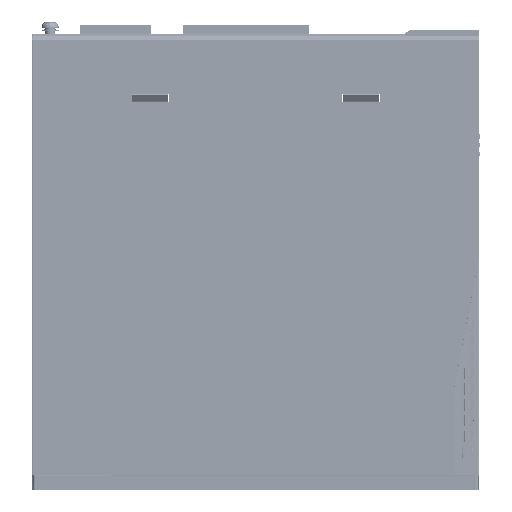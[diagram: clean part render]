
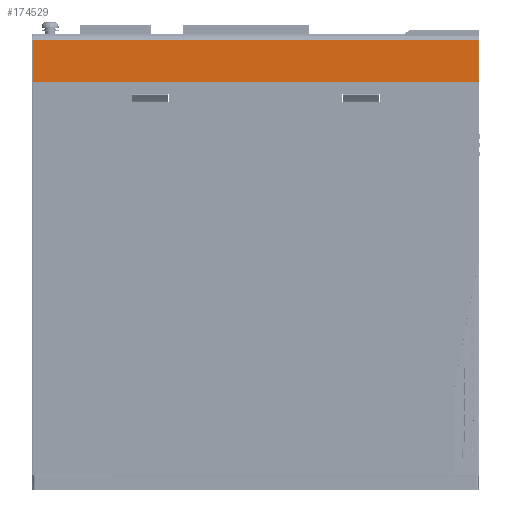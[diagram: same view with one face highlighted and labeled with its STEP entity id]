
A CAD part, front view. The second image highlights one B-rep face of the part: STEP entity #174529.
In plain terms, the highlighted planar face has unit normal (0, -1, 0).
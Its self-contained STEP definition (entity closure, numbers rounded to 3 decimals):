
#169408=CARTESIAN_POINT('Vertex',(169.304,-367.493,-17.)) ;
#169411=CARTESIAN_POINT('Line Origine',(77.003,-367.493,-17.)) ;
#169415=CARTESIAN_POINT('Vertex',(-15.298,-367.493,-17.)) ;
#174487=CARTESIAN_POINT('Line Origine',(-15.298,-367.493,-8.249)) ;
#174491=CARTESIAN_POINT('Vertex',(-15.298,-367.493,0.501)) ;
#174506=CARTESIAN_POINT('Axis2P3D Location',(188.01,-367.493,-18.996)) ;
#174511=CARTESIAN_POINT('Line Origine',(169.304,-367.493,-8.249)) ;
#174515=CARTESIAN_POINT('Vertex',(169.304,-367.493,0.501)) ;
#174518=CARTESIAN_POINT('Line Origine',(77.003,-367.493,0.501)) ;
#169412=DIRECTION('Vector Direction',(1.,0.,0.)) ;
#174488=DIRECTION('Vector Direction',(0.,0.,-1.)) ;
#174507=DIRECTION('Axis2P3D Direction',(-0.,1.,0.)) ;
#174508=DIRECTION('Axis2P3D XDirection',(1.,0.,0.)) ;
#174512=DIRECTION('Vector Direction',(0.,0.,1.)) ;
#174519=DIRECTION('Vector Direction',(1.,0.,0.)) ;
#174509=AXIS2_PLACEMENT_3D('Plane Axis2P3D',#174506,#174507,#174508) ;
#174524=ORIENTED_EDGE('',*,*,#174517,.T.) ;
#174525=ORIENTED_EDGE('',*,*,#174522,.F.) ;
#174526=ORIENTED_EDGE('',*,*,#174493,.F.) ;
#174527=ORIENTED_EDGE('',*,*,#169417,.T.) ;
#169413=VECTOR('Line Direction',#169412,1.) ;
#174489=VECTOR('Line Direction',#174488,1.) ;
#174513=VECTOR('Line Direction',#174512,1.) ;
#174520=VECTOR('Line Direction',#174519,1.) ;
#174529=ADVANCED_FACE('OPEN_SHELL #185987',(#174528),#174510,.F.) ;
#169417=EDGE_CURVE('',#169416,#169409,#169414,.T.) ;
#174493=EDGE_CURVE('',#169416,#174492,#174490,.F.) ;
#174517=EDGE_CURVE('',#169409,#174516,#174514,.T.) ;
#174522=EDGE_CURVE('',#174492,#174516,#174521,.T.) ;
#174523=EDGE_LOOP('',(#174524,#174525,#174526,#174527)) ;
#174528=FACE_OUTER_BOUND('',#174523,.T.) ;
#169414=LINE('Line',#169411,#169413) ;
#174490=LINE('Line',#174487,#174489) ;
#174514=LINE('Line',#174511,#174513) ;
#174521=LINE('Line',#174518,#174520) ;
#174510=PLANE('Plane',#174509) ;
#169409=VERTEX_POINT('',#169408) ;
#169416=VERTEX_POINT('',#169415) ;
#174492=VERTEX_POINT('',#174491) ;
#174516=VERTEX_POINT('',#174515) ;
